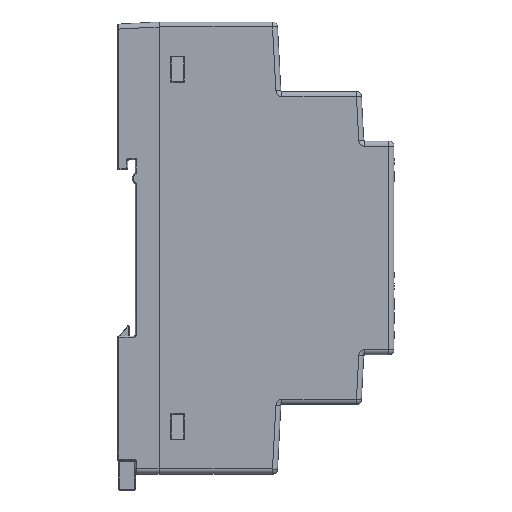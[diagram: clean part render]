
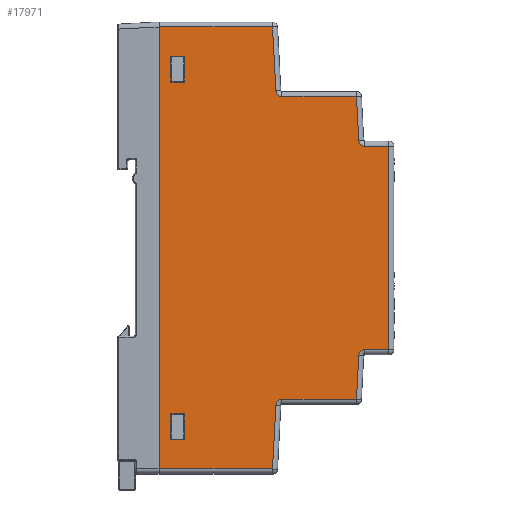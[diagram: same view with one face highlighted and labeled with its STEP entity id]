
A CAD part, top view. The second image highlights one B-rep face of the part: STEP entity #17971.
In plain terms, the highlighted planar face has unit normal (0, 0, 1) as drawn and (-1, 0, 0) by its records, which use the part's own axes.
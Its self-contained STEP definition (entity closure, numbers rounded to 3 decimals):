
#10238=DIRECTION('',(0.,0.,-1.));
#10239=VECTOR('',#10238,2.7);
#10240=CARTESIAN_POINT('',(-9.,-33.4,5.));
#10241=LINE('',#10240,#10239);
#10245=DIRECTION('',(0.,-1.,0.));
#10246=VECTOR('',#10245,5.2);
#10247=CARTESIAN_POINT('',(-9.,-33.4,2.3));
#10248=LINE('',#10247,#10246);
#10252=DIRECTION('',(0.,0.,1.));
#10253=VECTOR('',#10252,2.7);
#10254=CARTESIAN_POINT('',(-9.,-38.6,2.3));
#10255=LINE('',#10254,#10253);
#10259=DIRECTION('',(0.,1.,0.));
#10260=VECTOR('',#10259,5.2);
#10261=CARTESIAN_POINT('',(-9.,-38.6,5.));
#10262=LINE('',#10261,#10260);
#10266=DIRECTION('',(0.,0.,-1.));
#10267=VECTOR('',#10266,2.7);
#10268=CARTESIAN_POINT('',(-9.,38.6,5.));
#10269=LINE('',#10268,#10267);
#10273=DIRECTION('',(0.,-1.,0.));
#10274=VECTOR('',#10273,5.2);
#10275=CARTESIAN_POINT('',(-9.,38.6,2.3));
#10276=LINE('',#10275,#10274);
#10280=DIRECTION('',(0.,0.,1.));
#10281=VECTOR('',#10280,2.7);
#10282=CARTESIAN_POINT('',(-9.,33.4,2.3));
#10283=LINE('',#10282,#10281);
#10287=DIRECTION('',(0.,1.,0.));
#10288=VECTOR('',#10287,5.2);
#10289=CARTESIAN_POINT('',(-9.,33.4,5.));
#10290=LINE('',#10289,#10288);
#10294=DIRECTION('',(0.,0.,1.));
#10295=VECTOR('',#10294,4.886);
#10296=CARTESIAN_POINT('',(-9.,-20.5,41.314));
#10297=LINE('',#10296,#10295);
#10301=DIRECTION('',(0.,0.999,0.052));
#10302=VECTOR('',#10301,8.875);
#10303=CARTESIAN_POINT('',(-9.,-30.5,39.651));
#10304=LINE('',#10303,#10302);
#10308=DIRECTION('',(0.,0.,1.));
#10309=VECTOR('',#10308,15.028);
#10310=CARTESIAN_POINT('',(-9.,-30.5,24.624));
#10311=LINE('',#10310,#10309);
#10315=DIRECTION('',(0.,0.999,0.052));
#10316=VECTOR('',#10315,12.88);
#10317=CARTESIAN_POINT('',(-9.,-44.5,22.751));
#10318=LINE('',#10317,#10316);
#10322=DIRECTION('',(0.,0.,1.));
#10323=VECTOR('',#10322,22.751);
#10324=CARTESIAN_POINT('',(-9.,-44.5,0.));
#10325=LINE('',#10324,#10323);
#10329=DIRECTION('',(0.,1.,0.));
#10330=VECTOR('',#10329,89.);
#10331=CARTESIAN_POINT('',(-9.,-44.5,0.));
#10332=LINE('',#10331,#10330);
#10336=DIRECTION('',(0.,0.,-1.));
#10337=VECTOR('',#10336,22.751);
#10338=CARTESIAN_POINT('',(-9.,44.5,22.751));
#10339=LINE('',#10338,#10337);
#10343=DIRECTION('',(0.,0.999,-0.052));
#10344=VECTOR('',#10343,12.88);
#10345=CARTESIAN_POINT('',(-9.,31.637,23.425));
#10346=LINE('',#10345,#10344);
#10350=DIRECTION('',(0.,0.,-1.));
#10351=VECTOR('',#10350,15.028);
#10352=CARTESIAN_POINT('',(-9.,30.5,39.651));
#10353=LINE('',#10352,#10351);
#10357=DIRECTION('',(0.,0.999,-0.052));
#10358=VECTOR('',#10357,8.875);
#10359=CARTESIAN_POINT('',(-9.,21.637,40.116));
#10360=LINE('',#10359,#10358);
#10364=DIRECTION('',(0.,0.,-1.));
#10365=VECTOR('',#10364,4.886);
#10366=CARTESIAN_POINT('',(-9.,20.5,46.2));
#10367=LINE('',#10366,#10365);
#10371=DIRECTION('',(0.,1.,0.));
#10372=VECTOR('',#10371,41.);
#10373=CARTESIAN_POINT('',(-9.,-20.5,46.2));
#10374=LINE('',#10373,#10372);
#12308=CARTESIAN_POINT('',(-9.,31.7,24.624));
#12309=DIRECTION('',(-1.,0.,0.));
#12310=DIRECTION('',(0.,-0.052,-0.999));
#12311=AXIS2_PLACEMENT_3D('',#12308,#12309,#12310);
#13413=CARTESIAN_POINT('',(-9.,-31.7,24.624));
#13414=DIRECTION('',(-1.,0.,0.));
#13415=DIRECTION('',(0.,1.,0.));
#13416=AXIS2_PLACEMENT_3D('',#13413,#13414,#13415);
#13725=CARTESIAN_POINT('',(-9.,-21.7,41.314));
#13726=DIRECTION('',(-1.,0.,0.));
#13727=DIRECTION('',(0.,1.,0.));
#13728=AXIS2_PLACEMENT_3D('',#13725,#13726,#13727);
#13805=CARTESIAN_POINT('',(-9.,21.7,41.314));
#13806=DIRECTION('',(-1.,0.,0.));
#13807=DIRECTION('',(0.,-0.052,-0.999));
#13808=AXIS2_PLACEMENT_3D('',#13805,#13806,#13807);
#16913=CARTESIAN_POINT('',(-9.,-33.4,5.));
#16914=CARTESIAN_POINT('',(-9.,-33.4,2.3));
#16915=VERTEX_POINT('',#16913);
#16916=VERTEX_POINT('',#16914);
#16917=CARTESIAN_POINT('',(-9.,-38.6,2.3));
#16918=VERTEX_POINT('',#16917);
#16919=CARTESIAN_POINT('',(-9.,-38.6,5.));
#16920=VERTEX_POINT('',#16919);
#16921=CARTESIAN_POINT('',(-9.,38.6,5.));
#16922=CARTESIAN_POINT('',(-9.,38.6,2.3));
#16923=VERTEX_POINT('',#16921);
#16924=VERTEX_POINT('',#16922);
#16925=CARTESIAN_POINT('',(-9.,33.4,2.3));
#16926=VERTEX_POINT('',#16925);
#16927=CARTESIAN_POINT('',(-9.,33.4,5.));
#16928=VERTEX_POINT('',#16927);
#17010=CARTESIAN_POINT('',(-9.,-44.5,0.));
#17012=VERTEX_POINT('',#17010);
#17013=CARTESIAN_POINT('',(-9.,-44.5,22.751));
#17014=VERTEX_POINT('',#17013);
#17051=CARTESIAN_POINT('',(-9.,-20.5,46.2));
#17052=CARTESIAN_POINT('',(-9.,20.5,46.2));
#17053=VERTEX_POINT('',#17051);
#17054=VERTEX_POINT('',#17052);
#17083=CARTESIAN_POINT('',(-9.,44.5,0.));
#17085=VERTEX_POINT('',#17083);
#17087=CARTESIAN_POINT('',(-9.,44.5,22.751));
#17088=VERTEX_POINT('',#17087);
#17089=CARTESIAN_POINT('',(-9.,30.5,39.651));
#17090=VERTEX_POINT('',#17089);
#17091=CARTESIAN_POINT('',(-9.,-30.5,39.651));
#17092=VERTEX_POINT('',#17091);
#17105=CARTESIAN_POINT('',(-9.,-31.637,23.425));
#17106=VERTEX_POINT('',#17105);
#17107=CARTESIAN_POINT('',(-9.,-30.5,24.624));
#17108=VERTEX_POINT('',#17107);
#17121=CARTESIAN_POINT('',(-9.,-21.637,40.116));
#17122=VERTEX_POINT('',#17121);
#17123=CARTESIAN_POINT('',(-9.,-20.5,41.314));
#17124=VERTEX_POINT('',#17123);
#17137=CARTESIAN_POINT('',(-9.,20.5,41.314));
#17138=VERTEX_POINT('',#17137);
#17139=CARTESIAN_POINT('',(-9.,21.637,40.116));
#17140=VERTEX_POINT('',#17139);
#17153=CARTESIAN_POINT('',(-9.,30.5,24.624));
#17154=VERTEX_POINT('',#17153);
#17155=CARTESIAN_POINT('',(-9.,31.637,23.425));
#17156=VERTEX_POINT('',#17155);
#17912=CARTESIAN_POINT('',(-9.,0.,0.));
#17913=DIRECTION('',(1.,0.,0.));
#17914=DIRECTION('',(0.,0.,-1.));
#17915=AXIS2_PLACEMENT_3D('',#17912,#17913,#17914);
#17916=PLANE('',#17915);
#17918=ORIENTED_EDGE('',*,*,#17917,.F.);
#17920=ORIENTED_EDGE('',*,*,#17919,.T.);
#17922=ORIENTED_EDGE('',*,*,#17921,.F.);
#17924=ORIENTED_EDGE('',*,*,#17923,.F.);
#17926=ORIENTED_EDGE('',*,*,#17925,.T.);
#17928=ORIENTED_EDGE('',*,*,#17927,.F.);
#17930=ORIENTED_EDGE('',*,*,#17929,.F.);
#17932=ORIENTED_EDGE('',*,*,#17931,.T.);
#17934=ORIENTED_EDGE('',*,*,#17933,.F.);
#17936=ORIENTED_EDGE('',*,*,#17935,.F.);
#17938=ORIENTED_EDGE('',*,*,#17937,.T.);
#17940=ORIENTED_EDGE('',*,*,#17939,.F.);
#17942=ORIENTED_EDGE('',*,*,#17941,.F.);
#17944=ORIENTED_EDGE('',*,*,#17943,.T.);
#17946=ORIENTED_EDGE('',*,*,#17945,.F.);
#17948=ORIENTED_EDGE('',*,*,#17947,.F.);
#17949=EDGE_LOOP('',(#17918,#17920,#17922,#17924,#17926,#17928,#17930,#17932,
#17934,#17936,#17938,#17940,#17942,#17944,#17946,#17948));
#17950=FACE_OUTER_BOUND('',#17949,.F.);
#17952=ORIENTED_EDGE('',*,*,#17951,.T.);
#17954=ORIENTED_EDGE('',*,*,#17953,.T.);
#17956=ORIENTED_EDGE('',*,*,#17955,.T.);
#17958=ORIENTED_EDGE('',*,*,#17957,.T.);
#17959=EDGE_LOOP('',(#17952,#17954,#17956,#17958));
#17960=FACE_BOUND('',#17959,.F.);
#17962=ORIENTED_EDGE('',*,*,#17961,.T.);
#17964=ORIENTED_EDGE('',*,*,#17963,.T.);
#17966=ORIENTED_EDGE('',*,*,#17965,.T.);
#17968=ORIENTED_EDGE('',*,*,#17967,.T.);
#17969=EDGE_LOOP('',(#17962,#17964,#17966,#17968));
#17970=FACE_BOUND('',#17969,.F.);
#12312=CIRCLE('',#12311,1.2);
#13417=CIRCLE('',#13416,1.2);
#13729=CIRCLE('',#13728,1.2);
#13809=CIRCLE('',#13808,1.2);
#17917=EDGE_CURVE('',#17124,#17053,#10297,.T.);
#17919=EDGE_CURVE('',#17124,#17122,#13729,.T.);
#17921=EDGE_CURVE('',#17092,#17122,#10304,.T.);
#17923=EDGE_CURVE('',#17108,#17092,#10311,.T.);
#17925=EDGE_CURVE('',#17108,#17106,#13417,.T.);
#17927=EDGE_CURVE('',#17014,#17106,#10318,.T.);
#17929=EDGE_CURVE('',#17012,#17014,#10325,.T.);
#17931=EDGE_CURVE('',#17012,#17085,#10332,.T.);
#17933=EDGE_CURVE('',#17088,#17085,#10339,.T.);
#17935=EDGE_CURVE('',#17156,#17088,#10346,.T.);
#17937=EDGE_CURVE('',#17156,#17154,#12312,.T.);
#17939=EDGE_CURVE('',#17090,#17154,#10353,.T.);
#17941=EDGE_CURVE('',#17140,#17090,#10360,.T.);
#17943=EDGE_CURVE('',#17140,#17138,#13809,.T.);
#17945=EDGE_CURVE('',#17054,#17138,#10367,.T.);
#17947=EDGE_CURVE('',#17053,#17054,#10374,.T.);
#17951=EDGE_CURVE('',#16923,#16924,#10269,.T.);
#17953=EDGE_CURVE('',#16924,#16926,#10276,.T.);
#17955=EDGE_CURVE('',#16926,#16928,#10283,.T.);
#17957=EDGE_CURVE('',#16928,#16923,#10290,.T.);
#17961=EDGE_CURVE('',#16915,#16916,#10241,.T.);
#17963=EDGE_CURVE('',#16916,#16918,#10248,.T.);
#17965=EDGE_CURVE('',#16918,#16920,#10255,.T.);
#17967=EDGE_CURVE('',#16920,#16915,#10262,.T.);
#17971=ADVANCED_FACE('',(#17950,#17960,#17970),#17916,.F.);
